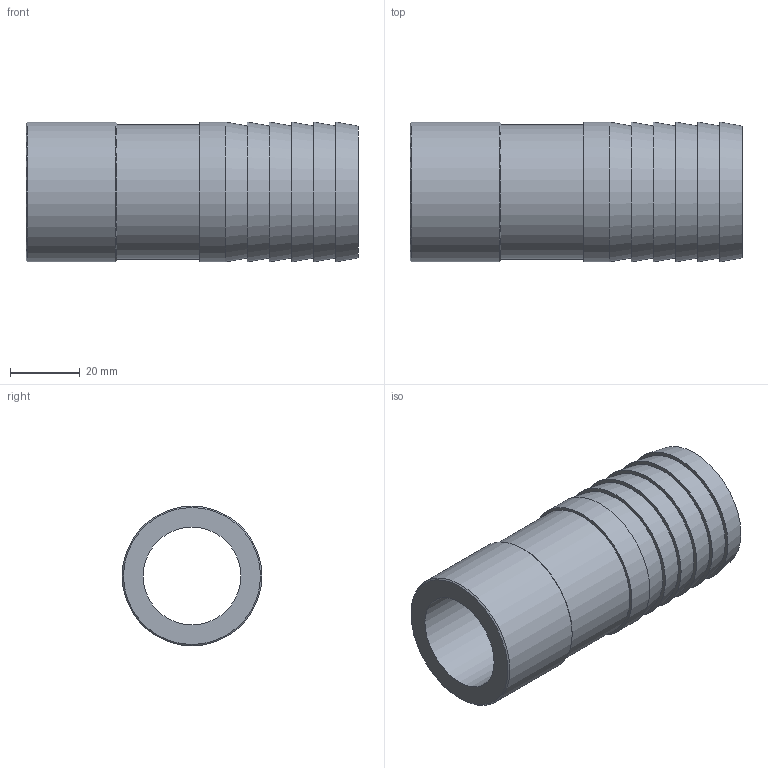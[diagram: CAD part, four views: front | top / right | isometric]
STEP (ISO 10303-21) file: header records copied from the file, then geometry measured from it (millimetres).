
FILE_DESCRIPTION(/* description */ ('PLASSON HOSE NOZZLE-CEM. PVC 40'),/* implementation_level */ '2;1');
FILE_NAME(/* name */ 'C:\Dropbox\KIMPROJECTS-Inventor\99-16-3568-Processing\PVC Catalog 2017\053600\053600040.ipt.stp',/* time_stamp */ '2017-12-07T16:02:58+02:00',/* author */ ('KIM'),/* organization */ (''),/* preprocessor_version */ 'ST-DEVELOPER v15.6',/* originating_system */ 'Autodesk Inventor 2015',/* authorisation */ '');
FILE_SCHEMA (('AUTOMOTIVE_DESIGN { 1 0 10303 214 3 1 1 }'));
Length unit declared in the file: millimetre
Products named in the file (1): 053600040
Bounding box: 95 x 40 x 40 mm (x, y, z)
Volume: 55907.5 mm3; surface area: 22078.8 mm2
Topology: 1 solids, 1 shells, 21 faces, 33 edges, 21 vertices
Faces by surface type: plane 9, cone 8, cylinder 4
Full cylindrical faces by diameter (mm): 28 x1, 38.4 x1, 40 x2
Entity records: 452 total; most frequent: DIRECTION 86, CARTESIAN_POINT 64, AXIS2_PLACEMENT_3D 43, EDGE_LOOP 42, ORIENTED_EDGE 42, FACE_BOUND 21, FACE_OUTER_BOUND 21, CIRCLE 21
